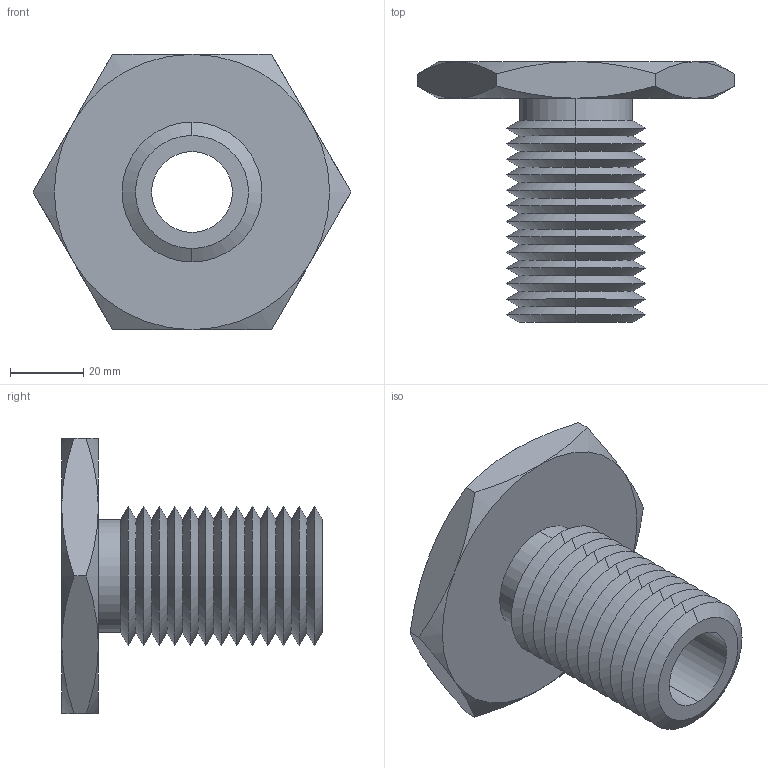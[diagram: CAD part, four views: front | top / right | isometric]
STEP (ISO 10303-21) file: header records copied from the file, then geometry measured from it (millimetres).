
FILE_DESCRIPTION (( 'STEP AP203' ), '1' );
FILE_NAME ('63302.W5150_M22x2,5.step', '2013-12-08T11:45:32', ( 'User' ), ( '' ), 'SwSTEP 2.0', 'SolidWorks 2009', '' );
FILE_SCHEMA (( 'CONFIG_CONTROL_DESIGN' ));
Length unit declared in the file: millimetre
Products named in the file (1): 63302.W5150_M22x2,5
Bounding box: 86.6 x 71 x 75 mm (x, y, z)
Volume: 76456.3 mm3; surface area: 28417.4 mm2
Topology: 1 solids, 1 shells, 79 faces, 162 edges, 86 vertices
Faces by surface type: cone 66, plane 9, cylinder 4
Entity records: 2239 total; most frequent: CARTESIAN_POINT 512, DIRECTION 372, ORIENTED_EDGE 324, EDGE_CURVE 162, AXIS2_PLACEMENT_3D 154, VERTEX_POINT 86, EDGE_LOOP 82, ADVANCED_FACE 79
